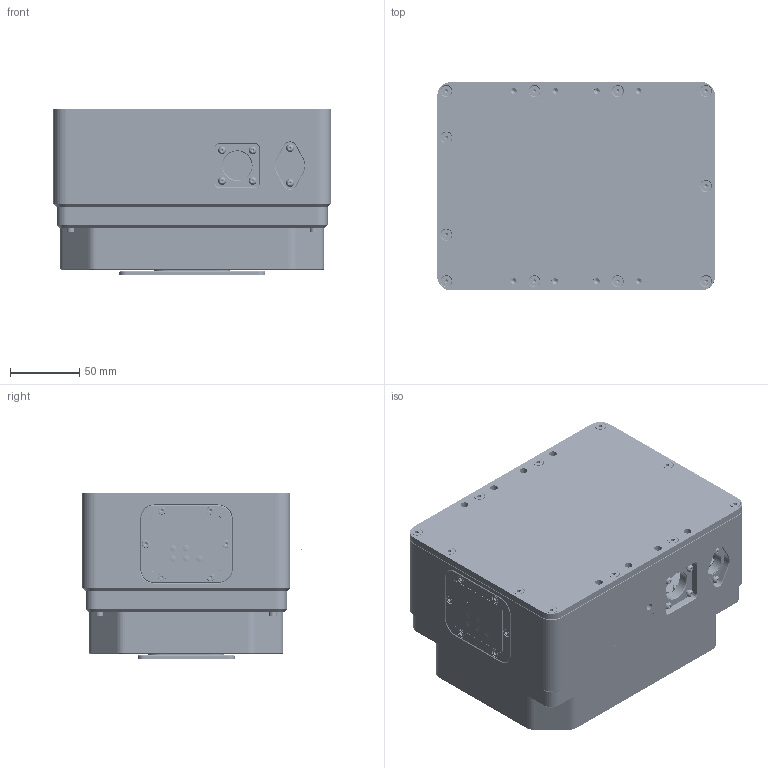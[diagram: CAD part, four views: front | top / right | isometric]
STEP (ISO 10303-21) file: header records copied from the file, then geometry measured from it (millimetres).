
FILE_DESCRIPTION (( 'STEP AP214' ), '1' );
FILE_NAME ('ECM1A-500-002-000.STEP腹雄耀輸.', '2025-10-14T03:09:22', ( 'selfweld_user' ), ( '' ), 'SwSTEP 2.0', 'SolidWorks 2022', '' );
FILE_SCHEMA (( 'AUTOMOTIVE_DESIGN' ));
Length unit declared in the file: millimetre
Products named in the file (1): ECM1A-500-002-000.STEP腹雄耀輸_㏒_谷__那_“|
Bounding box: 200.2 x 158.41 x 120 mm (x, y, z)
Volume: 1042892.8 mm3; surface area: 450742 mm2
Topology: 92 solids, 93 shells, 4785 faces, 11204 edges, 6703 vertices
Faces by surface type: plane 2284, cylinder 1217, cone 865, torus 276, bspline 131, sphere 12
Entity records: 184806 total; most frequent: CARTESIAN_POINT 42814, DIRECTION 27452, ORIENTED_EDGE 25888, EDGE_CURVE 12944, AXIS2_PLACEMENT_3D 9947, VERTEX_POINT 8012, LINE 7558, VECTOR 7558
